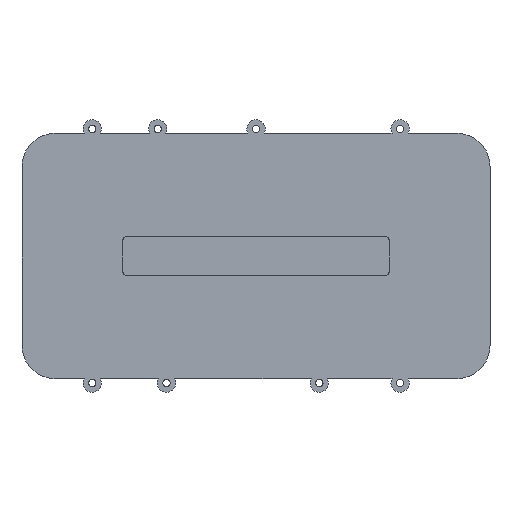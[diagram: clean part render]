
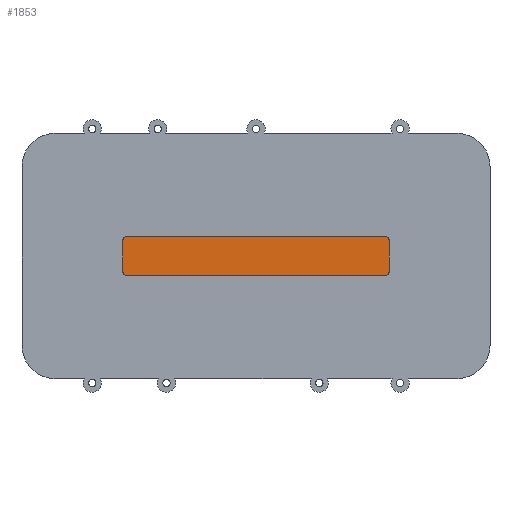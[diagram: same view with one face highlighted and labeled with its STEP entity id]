
A CAD part, top view. The second image highlights one B-rep face of the part: STEP entity #1853.
In plain terms, the highlighted planar face has unit normal (0, 0, 1).
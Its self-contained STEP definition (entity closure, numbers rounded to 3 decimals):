
#1399 = VERTEX_POINT('',#1400);
#1400 = CARTESIAN_POINT('',(39.,42.,4.5));
#1406 = EDGE_CURVE('',#1399,#1407,#1409,.T.);
#1407 = VERTEX_POINT('',#1408);
#1408 = CARTESIAN_POINT('',(41.,40.,4.5));
#1409 = CIRCLE('',#1410,2.);
#1410 = AXIS2_PLACEMENT_3D('',#1411,#1412,#1413);
#1411 = CARTESIAN_POINT('',(41.,42.,4.5));
#1412 = DIRECTION('',(0.,0.,1.));
#1413 = DIRECTION('',(1.,0.,-0.));
#1429 = EDGE_CURVE('',#1407,#1430,#1432,.T.);
#1430 = VERTEX_POINT('',#1431);
#1431 = CARTESIAN_POINT('',(159.,40.,4.5));
#1432 = LINE('',#1433,#1434);
#1433 = CARTESIAN_POINT('',(41.,40.,4.5));
#1434 = VECTOR('',#1435,1.);
#1435 = DIRECTION('',(1.,0.,-0.));
#1453 = EDGE_CURVE('',#1430,#1454,#1456,.T.);
#1454 = VERTEX_POINT('',#1455);
#1455 = CARTESIAN_POINT('',(161.,42.,4.5));
#1456 = CIRCLE('',#1457,2.);
#1457 = AXIS2_PLACEMENT_3D('',#1458,#1459,#1460);
#1458 = CARTESIAN_POINT('',(159.,42.,4.5));
#1459 = DIRECTION('',(0.,0.,1.));
#1460 = DIRECTION('',(1.,0.,-0.));
#1479 = EDGE_CURVE('',#1454,#1480,#1482,.T.);
#1480 = VERTEX_POINT('',#1481);
#1481 = CARTESIAN_POINT('',(161.,56.,4.5));
#1482 = LINE('',#1483,#1484);
#1483 = CARTESIAN_POINT('',(161.,42.,4.5));
#1484 = VECTOR('',#1485,1.);
#1485 = DIRECTION('',(-0.,1.,0.));
#1504 = EDGE_CURVE('',#1480,#1505,#1507,.T.);
#1505 = VERTEX_POINT('',#1506);
#1506 = CARTESIAN_POINT('',(159.,58.,4.5));
#1507 = CIRCLE('',#1508,2.);
#1508 = AXIS2_PLACEMENT_3D('',#1509,#1510,#1511);
#1509 = CARTESIAN_POINT('',(159.,56.,4.5));
#1510 = DIRECTION('',(0.,0.,1.));
#1511 = DIRECTION('',(1.,0.,-0.));
#1527 = EDGE_CURVE('',#1528,#1505,#1530,.T.);
#1528 = VERTEX_POINT('',#1529);
#1529 = CARTESIAN_POINT('',(41.,58.,4.5));
#1530 = LINE('',#1531,#1532);
#1531 = CARTESIAN_POINT('',(41.,58.,4.5));
#1532 = VECTOR('',#1533,1.);
#1533 = DIRECTION('',(1.,0.,-0.));
#1553 = EDGE_CURVE('',#1528,#1554,#1556,.T.);
#1554 = VERTEX_POINT('',#1555);
#1555 = CARTESIAN_POINT('',(39.,56.,4.5));
#1556 = CIRCLE('',#1557,2.);
#1557 = AXIS2_PLACEMENT_3D('',#1558,#1559,#1560);
#1558 = CARTESIAN_POINT('',(41.,56.,4.5));
#1559 = DIRECTION('',(0.,0.,1.));
#1560 = DIRECTION('',(1.,0.,-0.));
#1577 = EDGE_CURVE('',#1399,#1554,#1578,.T.);
#1578 = LINE('',#1579,#1580);
#1579 = CARTESIAN_POINT('',(39.,42.,4.5));
#1580 = VECTOR('',#1581,1.);
#1581 = DIRECTION('',(-0.,1.,0.));
#1853 = ADVANCED_FACE('',(#1854),#1864,.F.);
#1854 = FACE_BOUND('',#1855,.F.);
#1855 = EDGE_LOOP('',(#1856,#1857,#1858,#1859,#1860,#1861,#1862,#1863));
#1856 = ORIENTED_EDGE('',*,*,#1406,.F.);
#1857 = ORIENTED_EDGE('',*,*,#1577,.T.);
#1858 = ORIENTED_EDGE('',*,*,#1553,.F.);
#1859 = ORIENTED_EDGE('',*,*,#1527,.T.);
#1860 = ORIENTED_EDGE('',*,*,#1504,.F.);
#1861 = ORIENTED_EDGE('',*,*,#1479,.F.);
#1862 = ORIENTED_EDGE('',*,*,#1453,.F.);
#1863 = ORIENTED_EDGE('',*,*,#1429,.F.);
#1864 = PLANE('',#1865);
#1865 = AXIS2_PLACEMENT_3D('',#1866,#1867,#1868);
#1866 = CARTESIAN_POINT('',(100.,49.,4.5));
#1867 = DIRECTION('',(-0.,-0.,-1.));
#1868 = DIRECTION('',(-1.,0.,0.));
